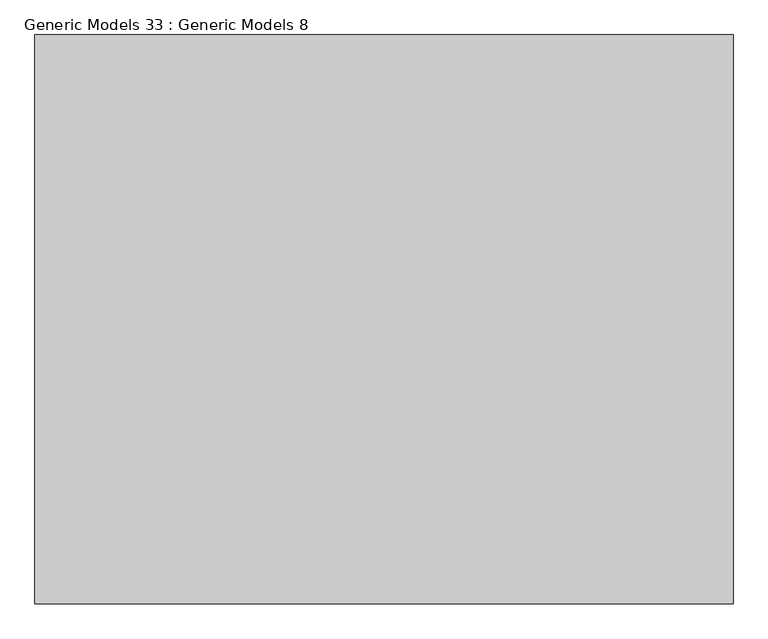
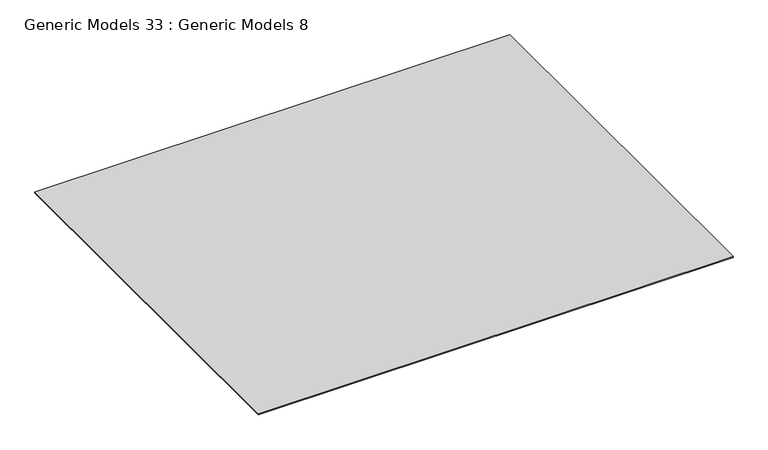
"""IFC4 building model written with IfcOpenShell, lengths in millimetres: proxy geometry, Generic Models 33 : Generic Models 8."""

from ifc_helpers import new_model, si_unit, origin, origin_with_axes, place, context, project, spatial, polyline, outline, extrude, source, transform, mapped, element, save


def generic_models_33_generic_models_8_4b093444(model_context):
    return source(origin(), model_context, "Body", "SweptSolid", [
        extrude(outline(polyline([(96124.9879055, 20015.7813206), (96124.9879055, 18334.4281393), (94062.5845465, 18334.4281393), (94062.5845465, 20015.7813206), (96124.9879055, 20015.7813206)])), origin_with_axes(), (0.0, 0.0, 1.0), 5.0),
    ])


if __name__ == "__main__":
    model = new_model("IFC4")
    model_context = context("Model", 3, world=origin())
    ifc_project = project(units=[si_unit("LENGTHUNIT", "METRE", prefix="MILLI")], contexts=[model_context])
    site = spatial("IfcSite", under=ifc_project)
    building = spatial("IfcBuilding", under=site)
    placement = place(None, origin())
    generic_models_33_generic_models_8_shape = generic_models_33_generic_models_8_4b093444(model_context)
    element("IfcBuildingElementProxy", 1, Name="Generic Models 33 : Generic Models 8", ObjectType="Generic Models 33 : Generic Models 8", at=placement, inside=building, context=model_context, shape_type="MappedRepresentation", body=[
        mapped(generic_models_33_generic_models_8_shape, transform((0.0, 0.0, 0.0), x_axis=(1.0, 0.0, 0.0), y_axis=(0.0, 1.0, 0.0), z_axis=(0.0, 0.0, 1.0))),
    ])
    save(model, "model.ifc")
